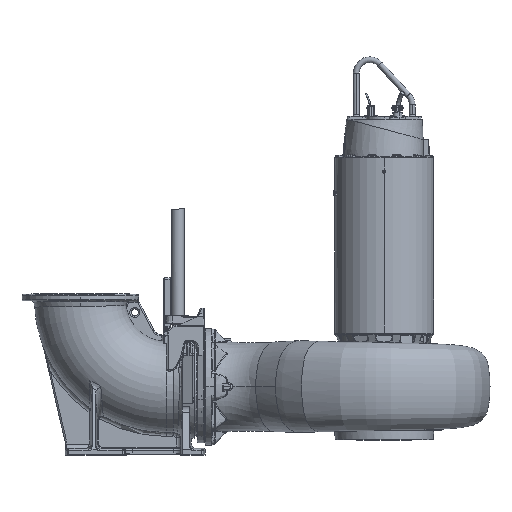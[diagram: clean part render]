
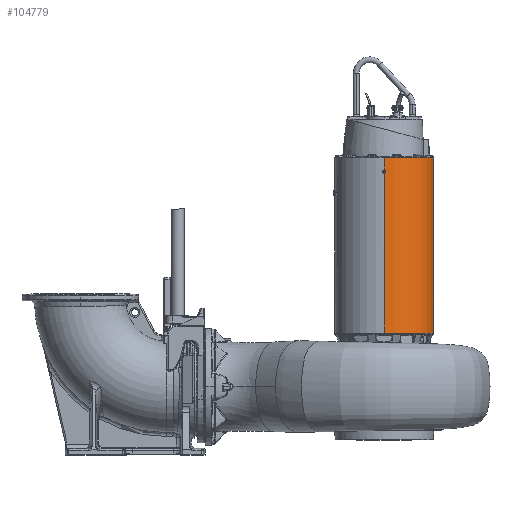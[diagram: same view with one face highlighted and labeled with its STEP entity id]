
A CAD part, top view. The second image highlights one B-rep face of the part: STEP entity #104779.
In plain terms, the highlighted cylindrical face has radius 344 mm (diameter 688 mm), a partial arc.
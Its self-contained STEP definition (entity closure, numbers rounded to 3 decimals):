
#12328 = CARTESIAN_POINT ( 'NONE',  ( 1253.167, 1879.141, -344. ) ) ;
#25904 = CARTESIAN_POINT ( 'NONE',  ( 1250., 745., -344. ) ) ;
#32592 = LINE ( 'NONE', #315555, #179181 ) ;
#34965 = VERTEX_POINT ( 'NONE', #84636 ) ;
#36084 = DIRECTION ( 'NONE',  ( 0., 1., 0. ) ) ;
#37960 = CARTESIAN_POINT ( 'NONE',  ( 1250., 2110.349, -344. ) ) ;
#39233 = CARTESIAN_POINT ( 'NONE',  ( 1253.167, 1879.141, 344. ) ) ;
#40069 = DIRECTION ( 'NONE',  ( 0., 1., 0. ) ) ;
#50290 = ORIENTED_EDGE ( 'NONE', *, *, #216710, .T. ) ;
#50832 = CARTESIAN_POINT ( 'NONE',  ( 1250., 1859.03, 344. ) ) ;
#55813 = VECTOR ( 'NONE', #244613, 1000. ) ;
#56834 =( BOUNDED_CURVE ( )  B_SPLINE_CURVE ( 3, ( #245296, #273013, #163278, #356126 ),
 .UNSPECIFIED., .F., .F. ) 
 B_SPLINE_CURVE_WITH_KNOTS ( ( 4, 4 ),
 ( 1.543, 1.571 ),
 .UNSPECIFIED. ) 
 CURVE ( )  GEOMETRIC_REPRESENTATION_ITEM ( )  RATIONAL_B_SPLINE_CURVE ( ( 1., 1., 1., 1. ) ) 
 REPRESENTATION_ITEM ( '' )  );
#57837 = DIRECTION ( 'NONE',  ( 0., 1., 0. ) ) ;
#63060 = CARTESIAN_POINT ( 'NONE',  ( 1250., 1880.97, -344. ) ) ;
#67719 =( BOUNDED_CURVE ( )  B_SPLINE_CURVE ( 3, ( #270141, #132658, #215851, #50832 ),
 .UNSPECIFIED., .F., .F. ) 
 B_SPLINE_CURVE_WITH_KNOTS ( ( 4, 4 ),
 ( 1.543, 1.571 ),
 .UNSPECIFIED. ) 
 CURVE ( )  GEOMETRIC_REPRESENTATION_ITEM ( )  RATIONAL_B_SPLINE_CURVE ( ( 1., 1., 1., 1. ) ) 
 REPRESENTATION_ITEM ( '' )  );
#67781 = CARTESIAN_POINT ( 'NONE',  ( 1256.334, 1877.313, -343.956 ) ) ;
#68174 = VERTEX_POINT ( 'NONE', #355005 ) ;
#68269 = VERTEX_POINT ( 'NONE', #25904 ) ;
#69432 = VERTEX_POINT ( 'NONE', #169712 ) ;
#71384 = CIRCLE ( 'NONE', #129230, 344. ) ;
#80811 = VECTOR ( 'NONE', #230749, 1000. ) ;
#81229 = CARTESIAN_POINT ( 'NONE',  ( 1250., 2110.349, -344. ) ) ;
#84636 = CARTESIAN_POINT ( 'NONE',  ( 1259.5, 1875.485, 343.869 ) ) ;
#85441 = ORIENTED_EDGE ( 'NONE', *, *, #300783, .T. ) ;
#93543 = CARTESIAN_POINT ( 'NONE',  ( 1250., 1859.03, 344. ) ) ;
#96941 = VERTEX_POINT ( 'NONE', #356828 ) ;
#97314 = CARTESIAN_POINT ( 'NONE',  ( 1250., 1859.03, -344. ) ) ;
#98295 = ORIENTED_EDGE ( 'NONE', *, *, #194266, .F. ) ;
#100291 = EDGE_CURVE ( 'NONE', #261191, #34965, #213470, .T. ) ;
#104779 = ADVANCED_FACE ( 'NONE', ( #233046 ), #189756, .T. ) ;
#106713 = ORIENTED_EDGE ( 'NONE', *, *, #275119, .F. ) ;
#122257 = CARTESIAN_POINT ( 'NONE',  ( 1259.5, 1875.485, 343.869 ) ) ;
#126266 =( BOUNDED_CURVE ( )  B_SPLINE_CURVE ( 3, ( #63060, #12328, #67781, #260606 ),
 .UNSPECIFIED., .F., .F. ) 
 B_SPLINE_CURVE_WITH_KNOTS ( ( 4, 4 ),
 ( 1.571, 1.598 ),
 .UNSPECIFIED. ) 
 CURVE ( )  GEOMETRIC_REPRESENTATION_ITEM ( )  RATIONAL_B_SPLINE_CURVE ( ( 1., 1., 1., 1. ) ) 
 REPRESENTATION_ITEM ( '' )  );
#128960 = LINE ( 'NONE', #298895, #55813 ) ;
#129230 = AXIS2_PLACEMENT_3D ( 'NONE', #222913, #57837, #250655 ) ;
#131223 = CARTESIAN_POINT ( 'NONE',  ( 1250., 2110.349, 344. ) ) ;
#132658 = CARTESIAN_POINT ( 'NONE',  ( 1256.334, 1862.687, 343.956 ) ) ;
#137780 = LINE ( 'NONE', #317053, #349066 ) ;
#140705 = LINE ( 'NONE', #131223, #352043 ) ;
#142206 = VERTEX_POINT ( 'NONE', #93543 ) ;
#142778 = VERTEX_POINT ( 'NONE', #282537 ) ;
#143808 = ORIENTED_EDGE ( 'NONE', *, *, #207781, .F. ) ;
#146994 = ORIENTED_EDGE ( 'NONE', *, *, #260391, .T. ) ;
#158942 = DIRECTION ( 'NONE',  ( 0., 1., 0. ) ) ;
#163278 = CARTESIAN_POINT ( 'NONE',  ( 1253.167, 1860.859, -344. ) ) ;
#169712 = CARTESIAN_POINT ( 'NONE',  ( 1259.5, 1875.485, -343.869 ) ) ;
#171572 = ORIENTED_EDGE ( 'NONE', *, *, #340533, .T. ) ;
#174570 = DIRECTION ( 'NONE',  ( 0., 0., -1. ) ) ;
#178129 = DIRECTION ( 'NONE',  ( 0., 1., 0. ) ) ;
#179181 = VECTOR ( 'NONE', #178129, 1000. ) ;
#184421 = ORIENTED_EDGE ( 'NONE', *, *, #314159, .T. ) ;
#189756 = CYLINDRICAL_SURFACE ( 'NONE', #277495, 344. ) ;
#192074 = EDGE_CURVE ( 'NONE', #142778, #142206, #32592, .T. ) ;
#194266 = EDGE_CURVE ( 'NONE', #254351, #96941, #250630, .T. ) ;
#200018 = ORIENTED_EDGE ( 'NONE', *, *, #192074, .F. ) ;
#201956 = ORIENTED_EDGE ( 'NONE', *, *, #100291, .T. ) ;
#202493 = CARTESIAN_POINT ( 'NONE',  ( 1250., 1970., 344. ) ) ;
#204267 = CARTESIAN_POINT ( 'NONE',  ( 1250., 1880.97, 344. ) ) ;
#205103 = CARTESIAN_POINT ( 'NONE',  ( 1250., 1970., 0. ) ) ;
#207781 = EDGE_CURVE ( 'NONE', #68174, #276405, #56834, .T. ) ;
#213470 =( BOUNDED_CURVE ( )  B_SPLINE_CURVE ( 3, ( #204267, #39233, #287454, #122257 ),
 .UNSPECIFIED., .F., .F. ) 
 B_SPLINE_CURVE_WITH_KNOTS ( ( 4, 4 ),
 ( 1.571, 1.598 ),
 .UNSPECIFIED. ) 
 CURVE ( )  GEOMETRIC_REPRESENTATION_ITEM ( )  RATIONAL_B_SPLINE_CURVE ( ( 1., 1., 1., 1. ) ) 
 REPRESENTATION_ITEM ( '' )  );
#214708 = CARTESIAN_POINT ( 'NONE',  ( 1259.5, 1864.515, 343.869 ) ) ;
#215851 = CARTESIAN_POINT ( 'NONE',  ( 1253.167, 1860.859, 344. ) ) ;
#216710 = EDGE_CURVE ( 'NONE', #34965, #344718, #137780, .T. ) ;
#222913 = CARTESIAN_POINT ( 'NONE',  ( 1250., 745., 0. ) ) ;
#224484 = VERTEX_POINT ( 'NONE', #331157 ) ;
#228902 = CARTESIAN_POINT ( 'NONE',  ( 1250., 2110.349, 0. ) ) ;
#230749 = DIRECTION ( 'NONE',  ( 0., 1., 0. ) ) ;
#232846 = DIRECTION ( 'NONE',  ( 0., 0., -1. ) ) ;
#233046 = FACE_OUTER_BOUND ( 'NONE', #353756, .T. ) ;
#236015 = LINE ( 'NONE', #37960, #80811 ) ;
#244613 = DIRECTION ( 'NONE',  ( 0., -1., 0. ) ) ;
#245141 = DIRECTION ( 'NONE',  ( 0., 1., 0. ) ) ;
#245296 = CARTESIAN_POINT ( 'NONE',  ( 1259.5, 1864.515, -343.869 ) ) ;
#250630 = CIRCLE ( 'NONE', #343046, 344. ) ;
#250655 = DIRECTION ( 'NONE',  ( 0., 0., -1. ) ) ;
#254351 = VERTEX_POINT ( 'NONE', #202493 ) ;
#260391 = EDGE_CURVE ( 'NONE', #142778, #68269, #71384, .T. ) ;
#260606 = CARTESIAN_POINT ( 'NONE',  ( 1259.5, 1875.485, -343.869 ) ) ;
#261191 = VERTEX_POINT ( 'NONE', #310796 ) ;
#261467 = ORIENTED_EDGE ( 'NONE', *, *, #282698, .F. ) ;
#270141 = CARTESIAN_POINT ( 'NONE',  ( 1259.5, 1864.515, 343.869 ) ) ;
#272513 = LINE ( 'NONE', #81229, #337112 ) ;
#273013 = CARTESIAN_POINT ( 'NONE',  ( 1256.334, 1862.687, -343.956 ) ) ;
#275119 = EDGE_CURVE ( 'NONE', #261191, #254351, #140705, .T. ) ;
#276405 = VERTEX_POINT ( 'NONE', #97314 ) ;
#277495 = AXIS2_PLACEMENT_3D ( 'NONE', #228902, #36084, #174570 ) ;
#282537 = CARTESIAN_POINT ( 'NONE',  ( 1250., 745., 344. ) ) ;
#282698 = EDGE_CURVE ( 'NONE', #224484, #69432, #126266, .T. ) ;
#286122 = ORIENTED_EDGE ( 'NONE', *, *, #357547, .F. ) ;
#287454 = CARTESIAN_POINT ( 'NONE',  ( 1256.334, 1877.313, 343.956 ) ) ;
#298895 = CARTESIAN_POINT ( 'NONE',  ( 1259.5, 2110.349, -343.869 ) ) ;
#300783 = EDGE_CURVE ( 'NONE', #68269, #276405, #272513, .T. ) ;
#310796 = CARTESIAN_POINT ( 'NONE',  ( 1250., 1880.97, 344. ) ) ;
#314159 = EDGE_CURVE ( 'NONE', #224484, #96941, #236015, .T. ) ;
#315555 = CARTESIAN_POINT ( 'NONE',  ( 1250., 2110.349, 344. ) ) ;
#317053 = CARTESIAN_POINT ( 'NONE',  ( 1259.5, 2110.349, 343.869 ) ) ;
#331157 = CARTESIAN_POINT ( 'NONE',  ( 1250., 1880.97, -344. ) ) ;
#337112 = VECTOR ( 'NONE', #245141, 1000. ) ;
#340533 = EDGE_CURVE ( 'NONE', #344718, #142206, #67719, .T. ) ;
#343046 = AXIS2_PLACEMENT_3D ( 'NONE', #205103, #40069, #232846 ) ;
#344718 = VERTEX_POINT ( 'NONE', #214708 ) ;
#344751 = DIRECTION ( 'NONE',  ( 0., -1., 0. ) ) ;
#349066 = VECTOR ( 'NONE', #344751, 1000. ) ;
#352043 = VECTOR ( 'NONE', #158942, 1000. ) ;
#353756 = EDGE_LOOP ( 'NONE', ( #200018, #146994, #85441, #143808, #286122, #261467, #184421, #98295, #106713, #201956, #50290, #171572 ) ) ;
#355005 = CARTESIAN_POINT ( 'NONE',  ( 1259.5, 1864.515, -343.869 ) ) ;
#356126 = CARTESIAN_POINT ( 'NONE',  ( 1250., 1859.03, -344. ) ) ;
#356828 = CARTESIAN_POINT ( 'NONE',  ( 1250., 1970., -344. ) ) ;
#357547 = EDGE_CURVE ( 'NONE', #69432, #68174, #128960, .T. ) ;
